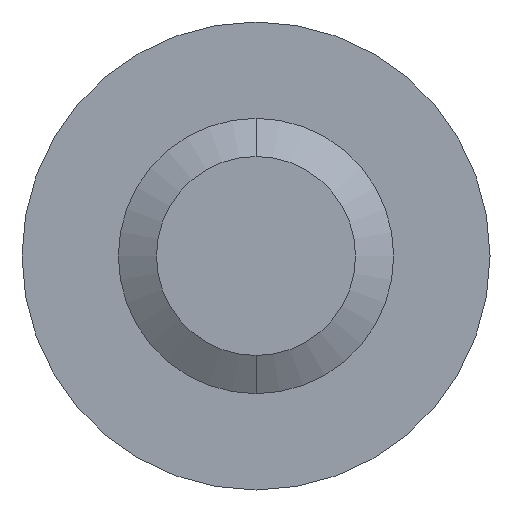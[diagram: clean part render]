
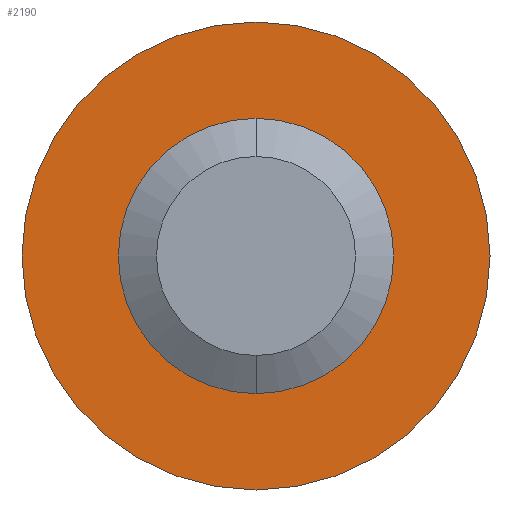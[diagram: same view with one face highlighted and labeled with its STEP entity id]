
A CAD part, front view. The second image highlights one B-rep face of the part: STEP entity #2190.
In plain terms, the highlighted planar face has unit normal (0, -1, 0).
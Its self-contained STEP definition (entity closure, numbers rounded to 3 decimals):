
#123 = DIRECTION ( 'NONE',  ( 0., 0., 1. ) ) ;
#134 = CARTESIAN_POINT ( 'NONE',  ( 0., 12., 4.25 ) ) ;
#169 = EDGE_LOOP ( 'NONE', ( #561, #571 ) ) ;
#286 = DIRECTION ( 'NONE',  ( 0., 0., 1. ) ) ;
#305 = CARTESIAN_POINT ( 'NONE',  ( 0., 12., 0. ) ) ;
#474 = VERTEX_POINT ( 'NONE', #614 ) ;
#476 = FACE_BOUND ( 'NONE', #169, .T. ) ;
#538 = CIRCLE ( 'NONE', #774, 4.25 ) ;
#561 = ORIENTED_EDGE ( 'NONE', *, *, #1199, .T. ) ;
#571 = ORIENTED_EDGE ( 'NONE', *, *, #721, .T. ) ;
#614 = CARTESIAN_POINT ( 'NONE',  ( 0., 12., -4.25 ) ) ;
#657 = DIRECTION ( 'NONE',  ( 0., 1., 0. ) ) ;
#685 = CARTESIAN_POINT ( 'NONE',  ( 0., 12., 2.5 ) ) ;
#714 = AXIS2_PLACEMENT_3D ( 'NONE', #305, #657, #1354 ) ;
#721 = EDGE_CURVE ( 'NONE', #1825, #2138, #842, .T. ) ;
#774 = AXIS2_PLACEMENT_3D ( 'NONE', #1867, #1115, #931 ) ;
#787 = CARTESIAN_POINT ( 'NONE',  ( 0., 12., 0. ) ) ;
#800 = CARTESIAN_POINT ( 'NONE',  ( 0., 12., 0. ) ) ;
#842 = CIRCLE ( 'NONE', #1592, 2.5 ) ;
#931 = DIRECTION ( 'NONE',  ( 0., 0., 1. ) ) ;
#936 = ORIENTED_EDGE ( 'NONE', *, *, #1978, .F. ) ;
#961 = CIRCLE ( 'NONE', #1080, 4.25 ) ;
#994 = DIRECTION ( 'NONE',  ( 0., 1., 0. ) ) ;
#1080 = AXIS2_PLACEMENT_3D ( 'NONE', #787, #1718, #286 ) ;
#1115 = DIRECTION ( 'NONE',  ( 0., 1., 0. ) ) ;
#1199 = EDGE_CURVE ( 'NONE', #2138, #1825, #1246, .T. ) ;
#1246 = CIRCLE ( 'NONE', #1989, 2.5 ) ;
#1343 = FACE_OUTER_BOUND ( 'NONE', #1949, .T. ) ;
#1354 = DIRECTION ( 'NONE',  ( 0., 0., 1. ) ) ;
#1407 = ORIENTED_EDGE ( 'NONE', *, *, #1727, .F. ) ;
#1524 = DIRECTION ( 'NONE',  ( 0., 0., 1. ) ) ;
#1529 = PLANE ( 'NONE',  #714 ) ;
#1592 = AXIS2_PLACEMENT_3D ( 'NONE', #800, #994, #123 ) ;
#1660 = VERTEX_POINT ( 'NONE', #134 ) ;
#1718 = DIRECTION ( 'NONE',  ( 0., 1., 0. ) ) ;
#1727 = EDGE_CURVE ( 'NONE', #474, #1660, #961, .T. ) ;
#1744 = CARTESIAN_POINT ( 'NONE',  ( 0., 12., 0. ) ) ;
#1825 = VERTEX_POINT ( 'NONE', #685 ) ;
#1867 = CARTESIAN_POINT ( 'NONE',  ( 0., 12., 0. ) ) ;
#1913 = CARTESIAN_POINT ( 'NONE',  ( 0., 12., -2.5 ) ) ;
#1949 = EDGE_LOOP ( 'NONE', ( #1407, #936 ) ) ;
#1978 = EDGE_CURVE ( 'NONE', #1660, #474, #538, .T. ) ;
#1989 = AXIS2_PLACEMENT_3D ( 'NONE', #1744, #2089, #1524 ) ;
#2089 = DIRECTION ( 'NONE',  ( 0., 1., 0. ) ) ;
#2138 = VERTEX_POINT ( 'NONE', #1913 ) ;
#2190 = ADVANCED_FACE ( 'NONE', ( #1343, #476 ), #1529, .F. ) ;
